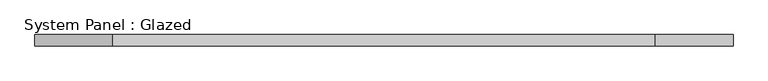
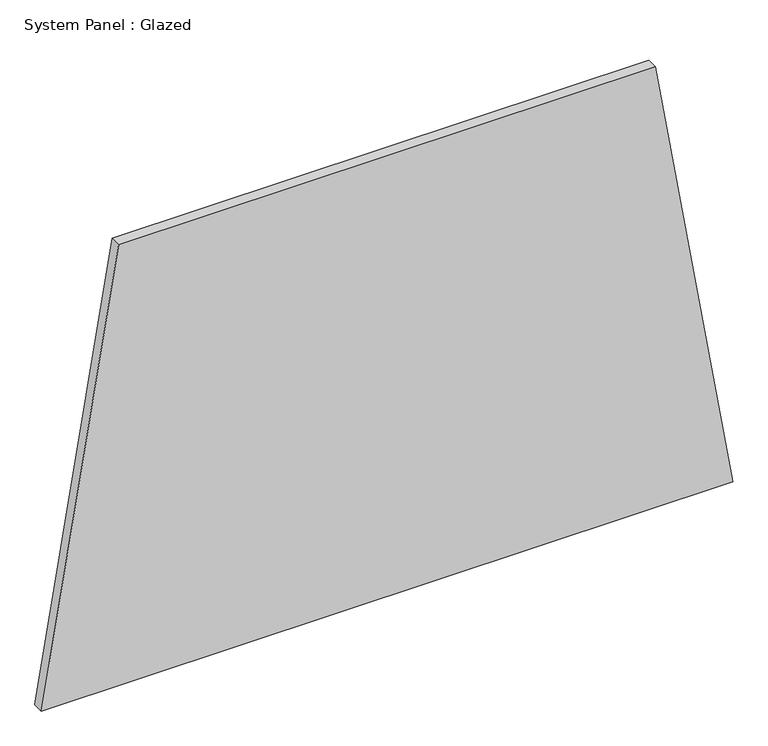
"""IFC4 building model written with IfcOpenShell, lengths in millimetres: plate geometry, System Panel : Glazed."""

from ifc_helpers import new_model, si_unit, frame, origin, place, context, project, spatial, polyline, outline, extrude, source, transform, mapped, element, save


def system_panel_glazed_a2729e2c(model_context):
    return source(origin(), model_context, "Body", "SweptSolid", [
        extrude(outline(polyline([(0.0, -781.3444033), (0.0, 781.3444033), (1052.4683813, 607.0671918), (1052.4683813, -607.0671918), (0.0, -781.3444033)])), frame((0.0, -44.45, 0.0), z_axis=(0.0, 1.0, 0.0), x_axis=(0.0, 0.0, 1.0)), (0.0, 0.0, 1.0), 25.4),
    ])


if __name__ == "__main__":
    model = new_model("IFC4")
    model_context = context("Model", 3, world=origin())
    ifc_project = project(units=[si_unit("LENGTHUNIT", "METRE", prefix="MILLI")], contexts=[model_context])
    site = spatial("IfcSite", under=ifc_project)
    building = spatial("IfcBuilding", under=site)
    placement = place(None, origin())
    system_panel_glazed_shape = system_panel_glazed_a2729e2c(model_context)
    element("IfcPlate", 1, ObjectType="System Panel : Glazed", at=placement, inside=building, context=model_context, shape_type="MappedRepresentation", body=[
        mapped(system_panel_glazed_shape, transform((0.0, 0.0, 0.0), x_axis=(1.0, 0.0, 0.0), y_axis=(0.0, 1.0, 0.0), z_axis=(0.0, 0.0, 1.0))),
    ])
    save(model, "model.ifc")
